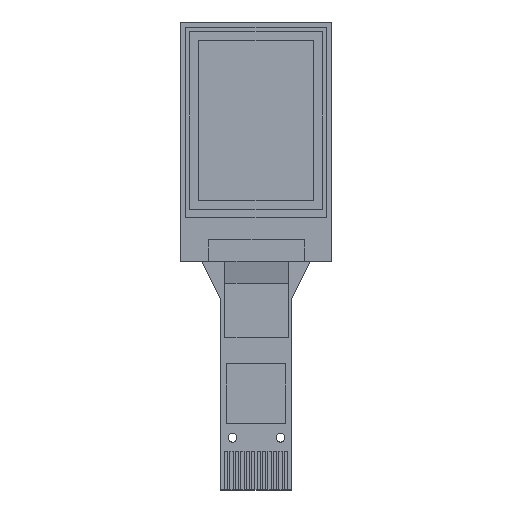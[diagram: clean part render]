
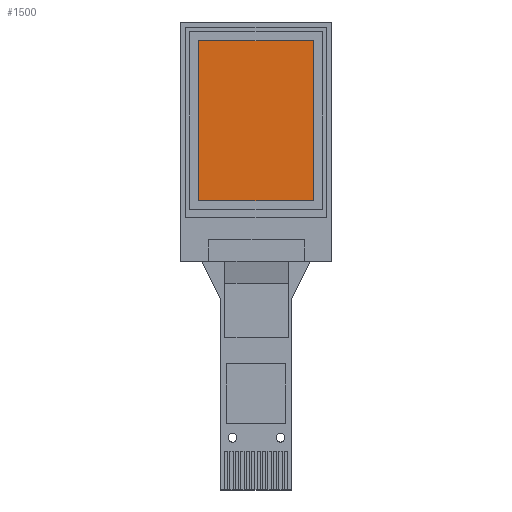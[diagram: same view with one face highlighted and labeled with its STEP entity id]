
A CAD part, top view. The second image highlights one B-rep face of the part: STEP entity #1500.
In plain terms, the highlighted planar face has unit normal (0, 0, 1).
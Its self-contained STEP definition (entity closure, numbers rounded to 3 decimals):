
#23 = PLANE ( 'NONE',  #1284 ) ;
#327 = VECTOR ( 'NONE', #4924, 1000. ) ;
#470 = DIRECTION ( 'NONE',  ( 1., 0., 0. ) ) ;
#502 = FACE_OUTER_BOUND ( 'NONE', #2186, .T. ) ;
#584 = ORIENTED_EDGE ( 'NONE', *, *, #5196, .F. ) ;
#981 = ORIENTED_EDGE ( 'NONE', *, *, #1991, .F. ) ;
#1284 = AXIS2_PLACEMENT_3D ( 'NONE', #5199, #1775, #470 ) ;
#1339 = CARTESIAN_POINT ( 'NONE',  ( 5.27, 0., 0.21 ) ) ;
#1400 = LINE ( 'NONE', #1339, #3050 ) ;
#1500 = ADVANCED_FACE ( 'NONE', ( #502 ), #23, .T. ) ;
#1545 = CARTESIAN_POINT ( 'NONE',  ( -5.27, 9.3, 0.21 ) ) ;
#1775 = DIRECTION ( 'NONE',  ( 0., 0., 1. ) ) ;
#1787 = VERTEX_POINT ( 'NONE', #4766 ) ;
#1818 = ORIENTED_EDGE ( 'NONE', *, *, #2382, .F. ) ;
#1921 = CARTESIAN_POINT ( 'NONE',  ( -5.27, -5.4, 0.21 ) ) ;
#1968 = CARTESIAN_POINT ( 'NONE',  ( 0., -5.4, 0.21 ) ) ;
#1991 = EDGE_CURVE ( 'NONE', #4763, #1787, #1400, .T. ) ;
#2186 = EDGE_LOOP ( 'NONE', ( #1818, #2263, #981, #584 ) ) ;
#2263 = ORIENTED_EDGE ( 'NONE', *, *, #4905, .F. ) ;
#2382 = EDGE_CURVE ( 'NONE', #5015, #2765, #4616, .T. ) ;
#2765 = VERTEX_POINT ( 'NONE', #1545 ) ;
#3050 = VECTOR ( 'NONE', #4715, 1000. ) ;
#3204 = LINE ( 'NONE', #1968, #327 ) ;
#3385 = CARTESIAN_POINT ( 'NONE',  ( -5.27, 0., 0.21 ) ) ;
#3422 = VECTOR ( 'NONE', #3988, 1000. ) ;
#3616 = CARTESIAN_POINT ( 'NONE',  ( 0., 9.3, 0.21 ) ) ;
#3804 = CARTESIAN_POINT ( 'NONE',  ( 5.27, 9.3, 0.21 ) ) ;
#3988 = DIRECTION ( 'NONE',  ( 1., 0., 0. ) ) ;
#4616 = LINE ( 'NONE', #3385, #5473 ) ;
#4715 = DIRECTION ( 'NONE',  ( 0., -1., 0. ) ) ;
#4763 = VERTEX_POINT ( 'NONE', #3804 ) ;
#4766 = CARTESIAN_POINT ( 'NONE',  ( 5.27, -5.4, 0.21 ) ) ;
#4883 = LINE ( 'NONE', #3616, #3422 ) ;
#4905 = EDGE_CURVE ( 'NONE', #1787, #5015, #3204, .T. ) ;
#4924 = DIRECTION ( 'NONE',  ( -1., 0., 0. ) ) ;
#5015 = VERTEX_POINT ( 'NONE', #1921 ) ;
#5109 = DIRECTION ( 'NONE',  ( 0., 1., 0. ) ) ;
#5196 = EDGE_CURVE ( 'NONE', #2765, #4763, #4883, .T. ) ;
#5199 = CARTESIAN_POINT ( 'NONE',  ( 0., 0., 0.21 ) ) ;
#5473 = VECTOR ( 'NONE', #5109, 1000. ) ;
